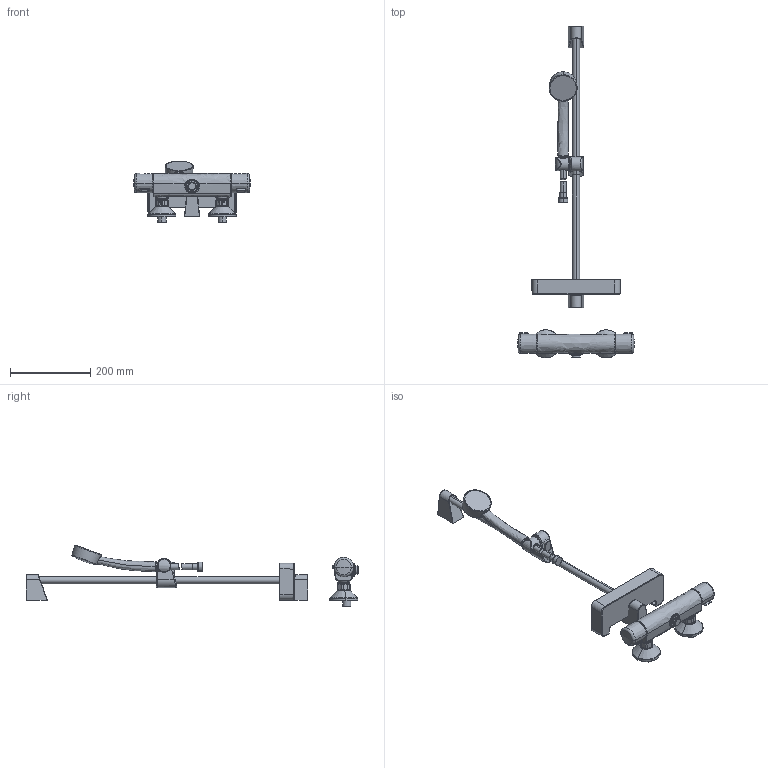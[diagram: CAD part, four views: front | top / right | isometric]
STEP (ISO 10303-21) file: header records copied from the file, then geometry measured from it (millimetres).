
FILE_DESCRIPTION (( 'STEP AP203' ), '1' );
FILE_NAME ('7412L(2020).STEP', '2021-02-22T11:21:07', ( '' ), ( '' ), 'SwSTEP 2.0', 'SolidWorks 2016', '' );
FILE_SCHEMA (( 'CONFIG_CONTROL_DESIGN' ));
Length unit declared in the file: millimetre
Products named in the file (1): 7412L(2020)
Bounding box: 289.8 x 825.9 x 153.53 mm (x, y, z)
Volume: 1502886.7 mm3; surface area: 291166.2 mm2
Topology: 23 solids, 23 shells, 515 faces, 1149 edges, 700 vertices
Faces by surface type: cylinder 138, plane 121, bspline 115, cone 79, torus 48, sphere 14
Entity records: 29736 total; most frequent: CARTESIAN_POINT 19178, ORIENTED_EDGE 2286, DIRECTION 2024, EDGE_CURVE 1143, AXIS2_PLACEMENT_3D 854, VERTEX_POINT 698, EDGE_LOOP 539, ADVANCED_FACE 515
